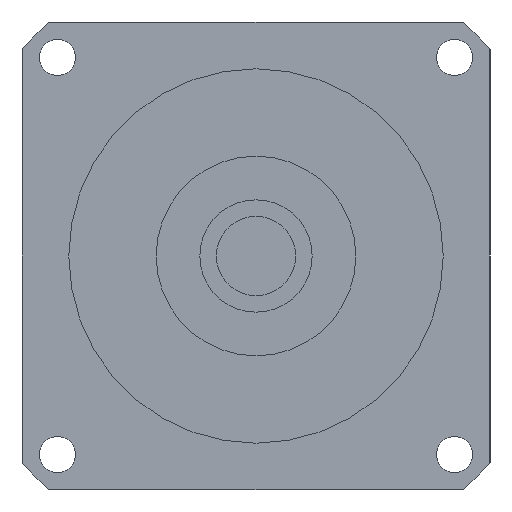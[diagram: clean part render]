
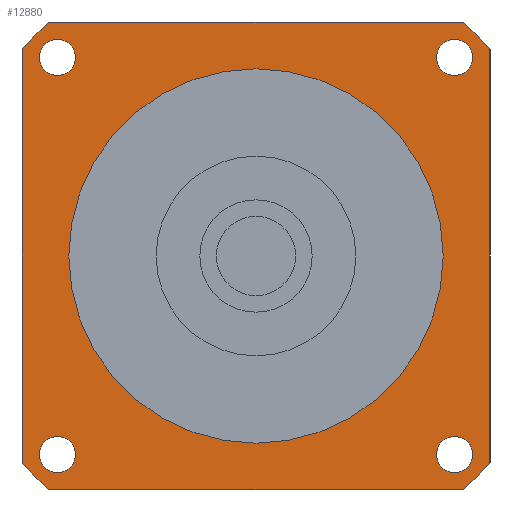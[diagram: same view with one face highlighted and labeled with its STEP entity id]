
A CAD part, left-side view. The second image highlights one B-rep face of the part: STEP entity #12880.
In plain terms, the highlighted planar face has unit normal (-1, 0, 0) as drawn and (0, 0, -1) by its records, which use the part's own axes.
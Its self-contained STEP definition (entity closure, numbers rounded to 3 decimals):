
#8640=CARTESIAN_POINT('',(33.072,-37.5,-37.));
#8650=VERTEX_POINT('',#8640);
#8700=CARTESIAN_POINT('',(37.5,-37.5,-37.));
#8710=DIRECTION('',(-1.,0.,0.));
#8720=VECTOR('',#8710,1000.);
#8730=LINE('',#8700,#8720);
#8740=CARTESIAN_POINT('',(-33.072,-37.5,-37.));
#8750=VERTEX_POINT('',#8740);
#8760=EDGE_CURVE('',#8650,#8750,#8730,.T.);
#9150=CARTESIAN_POINT('',(-31.82,-28.92,-37.));
#9160=VERTEX_POINT('',#9150);
#9190=CARTESIAN_POINT('',(-31.82,-31.82,-37.));
#9200=DIRECTION('',(0.,0.,-1.));
#9210=DIRECTION('',(0.,-1.,0.));
#9220=AXIS2_PLACEMENT_3D('',#9190,#9200,#9210);
#9230=CIRCLE('',#9220,2.9);
#9240=CARTESIAN_POINT('',(-31.82,-34.72,-37.));
#9250=VERTEX_POINT('',#9240);
#9260=EDGE_CURVE('',#9250,#9160,#9230,.T.);
#11380=CARTESIAN_POINT('',(0.,-30.,-37.));
#11390=VERTEX_POINT('',#11380);
#11420=CARTESIAN_POINT('',(0.,0.,
-37.));
#11430=DIRECTION('',(0.,0.,1.));
#11440=DIRECTION('',(1.,0.,0.));
#11450=AXIS2_PLACEMENT_3D('',#11420,#11430,#11440);
#11460=CIRCLE('',#11450,30.);
#11470=CARTESIAN_POINT('',(30.,0.,-37.));
#11480=VERTEX_POINT('',#11470);
#11490=EDGE_CURVE('',#11390,#11480,#11460,.T.);
#11510=CARTESIAN_POINT('',(0.,30.,-37.));
#11520=VERTEX_POINT('',#11510);
#11530=EDGE_CURVE('',#11480,#11520,#11460,.T.);
#11660=CARTESIAN_POINT('',(37.5,-37.5,-37.));
#11670=DIRECTION('',(0.,0.,-1.));
#11680=DIRECTION('',(0.,-1.,0.));
#11690=AXIS2_PLACEMENT_3D('',#11660,#11670,#11680);
#11700=PLANE('',#11690);
#11710=CARTESIAN_POINT('',(-31.82,31.82,-37.));
#11720=DIRECTION('',(0.,0.,-1.));
#11730=DIRECTION('',(-1.,0.,0.));
#11740=AXIS2_PLACEMENT_3D('',#11710,#11720,#11730);
#11750=CIRCLE('',#11740,2.9);
#11760=CARTESIAN_POINT('',(-34.72,31.82,-37.));
#11770=VERTEX_POINT('',#11760);
#11780=CARTESIAN_POINT('',(-28.92,31.82,-37.));
#11790=VERTEX_POINT('',#11780);
#11800=EDGE_CURVE('',#11770,#11790,#11750,.T.);
#11810=ORIENTED_EDGE('',*,*,#11800,.F.);
#11820=EDGE_CURVE('',#11790,#11770,#11750,.T.);
#11830=ORIENTED_EDGE('',*,*,#11820,.F.);
#11840=EDGE_LOOP('',(#11830,#11810));
#11850=FACE_BOUND('',#11840,.T.);
#11860=CARTESIAN_POINT('',(31.82,31.82,-37.));
#11870=DIRECTION('',(0.,0.,-1.));
#11880=DIRECTION('',(0.,1.,0.));
#11890=AXIS2_PLACEMENT_3D('',#11860,#11870,#11880);
#11900=CIRCLE('',#11890,2.9);
#11910=CARTESIAN_POINT('',(31.82,34.72,-37.));
#11920=VERTEX_POINT('',#11910);
#11930=CARTESIAN_POINT('',(31.82,28.92,-37.));
#11940=VERTEX_POINT('',#11930);
#11950=EDGE_CURVE('',#11920,#11940,#11900,.T.);
#11960=ORIENTED_EDGE('',*,*,#11950,.F.);
#11970=EDGE_CURVE('',#11940,#11920,#11900,.T.);
#11980=ORIENTED_EDGE('',*,*,#11970,.F.);
#11990=EDGE_LOOP('',(#11980,#11960));
#12000=FACE_BOUND('',#11990,.T.);
#12010=CARTESIAN_POINT('',(31.82,-31.82,-37.));
#12020=DIRECTION('',(0.,0.,-1.));
#12030=DIRECTION('',(1.,0.,0.));
#12040=AXIS2_PLACEMENT_3D('',#12010,#12020,#12030);
#12050=CIRCLE('',#12040,2.9);
#12060=CARTESIAN_POINT('',(34.72,-31.82,-37.));
#12070=VERTEX_POINT('',#12060);
#12080=CARTESIAN_POINT('',(28.92,-31.82,-37.));
#12090=VERTEX_POINT('',#12080);
#12100=EDGE_CURVE('',#12070,#12090,#12050,.T.);
#12110=ORIENTED_EDGE('',*,*,#12100,.F.);
#12120=EDGE_CURVE('',#12090,#12070,#12050,.T.);
#12130=ORIENTED_EDGE('',*,*,#12120,.F.);
#12140=EDGE_LOOP('',(#12130,#12110));
#12150=FACE_BOUND('',#12140,.T.);
#12160=EDGE_CURVE('',#11520,#11390,#11460,.T.);
#12170=ORIENTED_EDGE('',*,*,#12160,.T.);
#12180=ORIENTED_EDGE('',*,*,#11530,.T.);
#12190=ORIENTED_EDGE('',*,*,#11490,.T.);
#12200=EDGE_LOOP('',(#12190,#12180,#12170));
#12210=FACE_BOUND('',#12200,.T.);
#12220=CARTESIAN_POINT('',(37.5,37.5,-37.));
#12230=DIRECTION('',(0.,-1.,0.));
#12240=VECTOR('',#12230,1000.);
#12250=LINE('',#12220,#12240);
#12260=CARTESIAN_POINT('',(37.5,33.072,-37.));
#12270=VERTEX_POINT('',#12260);
#12280=CARTESIAN_POINT('',(37.5,-33.072,-37.));
#12290=VERTEX_POINT('',#12280);
#12300=EDGE_CURVE('',#12270,#12290,#12250,.T.);
#12310=ORIENTED_EDGE('',*,*,#12300,.T.);
#12320=CARTESIAN_POINT('',(0.,0.,
-37.));
#12330=DIRECTION('',(0.,0.,-1.));
#12340=DIRECTION('',(0.,-1.,0.));
#12350=AXIS2_PLACEMENT_3D('',#12320,#12330,#12340);
#12360=CIRCLE('',#12350,50.);
#12370=CARTESIAN_POINT('',(33.072,37.5,-37.));
#12380=VERTEX_POINT('',#12370);
#12390=EDGE_CURVE('',#12380,#12270,#12360,.T.);
#12400=ORIENTED_EDGE('',*,*,#12390,.T.);
#12410=CARTESIAN_POINT('',(-37.5,37.5,-37.));
#12420=DIRECTION('',(1.,0.,0.));
#12430=VECTOR('',#12420,1000.);
#12440=LINE('',#12410,#12430);
#12450=CARTESIAN_POINT('',(-33.072,37.5,-37.));
#12460=VERTEX_POINT('',#12450);
#12470=EDGE_CURVE('',#12460,#12380,#12440,.T.);
#12480=ORIENTED_EDGE('',*,*,#12470,.T.);
#12490=CARTESIAN_POINT('',(0.,0.,
-37.));
#12500=DIRECTION('',(0.,0.,-1.));
#12510=DIRECTION('',(0.,-1.,0.));
#12520=AXIS2_PLACEMENT_3D('',#12490,#12500,#12510);
#12530=CIRCLE('',#12520,50.);
#12540=CARTESIAN_POINT('',(-37.5,33.072,-37.));
#12550=VERTEX_POINT('',#12540);
#12560=EDGE_CURVE('',#12550,#12460,#12530,.T.);
#12570=ORIENTED_EDGE('',*,*,#12560,.T.);
#12580=CARTESIAN_POINT('',(-37.5,-37.5,-37.));
#12590=DIRECTION('',(0.,1.,0.));
#12600=VECTOR('',#12590,1000.);
#12610=LINE('',#12580,#12600);
#12620=CARTESIAN_POINT('',(-37.5,-33.072,-37.));
#12630=VERTEX_POINT('',#12620);
#12640=EDGE_CURVE('',#12630,#12550,#12610,.T.);
#12650=ORIENTED_EDGE('',*,*,#12640,.T.);
#12660=CARTESIAN_POINT('',(0.,0.,
-37.));
#12670=DIRECTION('',(0.,0.,-1.));
#12680=DIRECTION('',(0.,-1.,0.));
#12690=AXIS2_PLACEMENT_3D('',#12660,#12670,#12680);
#12700=CIRCLE('',#12690,50.);
#12710=EDGE_CURVE('',#8750,#12630,#12700,.T.);
#12720=ORIENTED_EDGE('',*,*,#12710,.T.);
#12730=ORIENTED_EDGE('',*,*,#8760,.T.);
#12740=CARTESIAN_POINT('',(0.,0.,
-37.));
#12750=DIRECTION('',(0.,0.,-1.));
#12760=DIRECTION('',(0.,-1.,0.));
#12770=AXIS2_PLACEMENT_3D('',#12740,#12750,#12760);
#12780=CIRCLE('',#12770,50.);
#12790=EDGE_CURVE('',#12290,#8650,#12780,.T.);
#12800=ORIENTED_EDGE('',*,*,#12790,.T.);
#12810=EDGE_LOOP('',(#12800,#12730,#12720,#12650,#12570,#12480,#12400,
#12310));
#12820=FACE_OUTER_BOUND('',#12810,.T.);
#12830=ORIENTED_EDGE('',*,*,#9260,.F.);
#12840=EDGE_CURVE('',#9160,#9250,#9230,.T.);
#12850=ORIENTED_EDGE('',*,*,#12840,.F.);
#12860=EDGE_LOOP('',(#12850,#12830));
#12870=FACE_BOUND('',#12860,.T.);
#12880=ADVANCED_FACE('',(#11850,#12000,#12150,#12210,#12820,#12870),
#11700,.T.);
